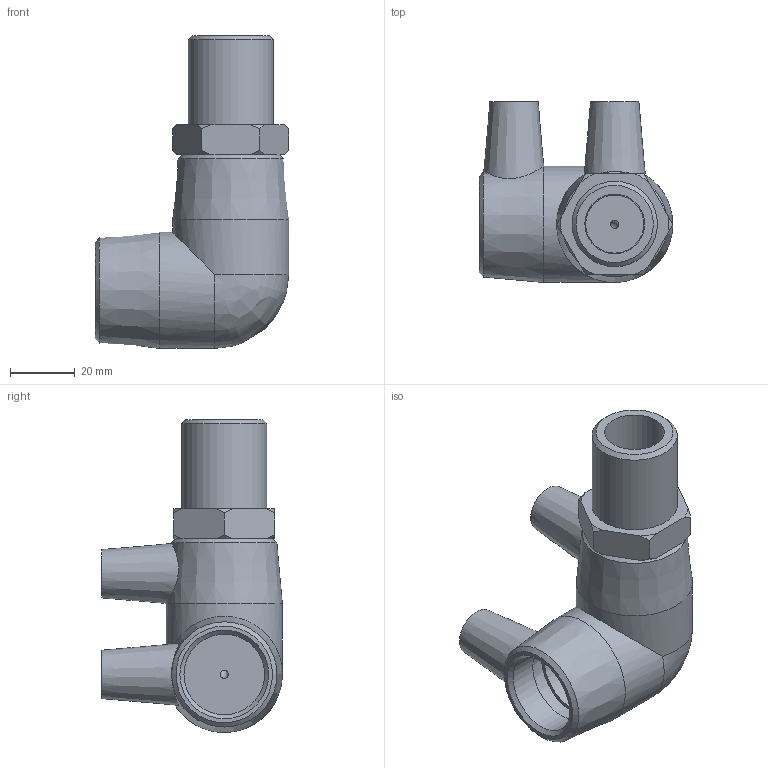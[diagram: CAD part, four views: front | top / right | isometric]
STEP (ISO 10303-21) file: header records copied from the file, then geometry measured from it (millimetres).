
FILE_DESCRIPTION(/* description */ ('PE Male Transition Elbow 90° 25x 3_4'),/* implementation_level */ '2;1');
FILE_NAME(/* name */ 'C:\Dropbox\KIMPROJECTS-Inventor\99-16-3568-Processing\ElectroFusion Fittings\21.04\497504\497504025007.ipt.stp',/* time_stamp */ '2019-04-21T15:12:58+03:00',/* author */ ('KIM'),/* organization */ (''),/* preprocessor_version */ 'ST-DEVELOPER v15.6',/* originating_system */ 'Autodesk Inventor 2015',/* authorisation */ '');
FILE_SCHEMA (('AUTOMOTIVE_DESIGN { 1 0 10303 214 3 1 1 }'));
Length unit declared in the file: millimetre
Products named in the file (1): 497504025007
Bounding box: 60 x 56 x 96.99 mm (x, y, z)
Volume: 79401.1 mm3; surface area: 28189.3 mm2
Topology: 2 solids, 2 shells, 62 faces, 136 edges, 86 vertices
Faces by surface type: cone 24, plane 22, cylinder 14, bspline 1, torus 1
Full cylindrical faces by diameter (mm): 2.5 x1, 4 x2, 10 x2, 18 x1, 18.509 x1, 25 x4, 26.441 x1, 36 x2
Entity records: 1601 total; most frequent: CARTESIAN_POINT 398, DIRECTION 250, ORIENTED_EDGE 204, AXIS2_PLACEMENT_3D 116, EDGE_CURVE 102, EDGE_LOOP 101, VERTEX_POINT 79, FACE_OUTER_BOUND 62
